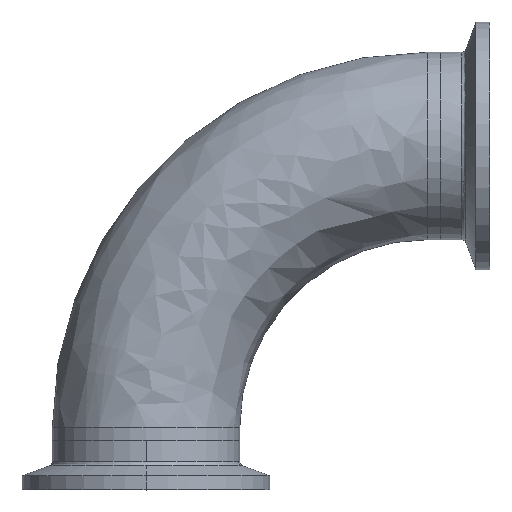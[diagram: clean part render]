
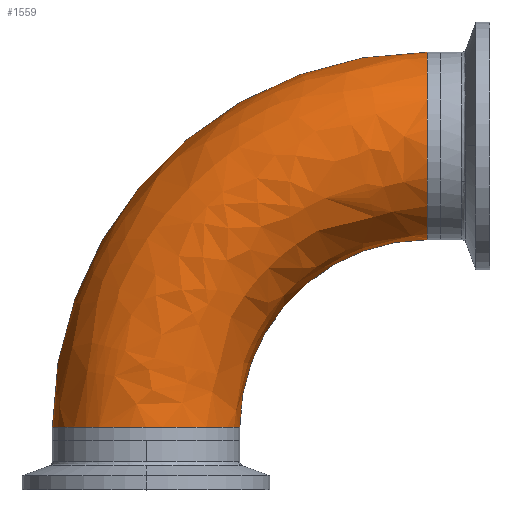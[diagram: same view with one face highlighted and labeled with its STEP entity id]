
A CAD part, top view. The second image highlights one B-rep face of the part: STEP entity #1559.
In plain terms, the highlighted free-form (B-spline) face has degree [3, 3] with [4, 4] control points.
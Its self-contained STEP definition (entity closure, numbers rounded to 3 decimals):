
#41 = ORIENTED_EDGE ( 'NONE', *, *, #1958, .T. ) ;
#94 = VERTEX_POINT ( 'NONE', #3022 ) ;
#98 = CARTESIAN_POINT ( 'NONE',  ( 57.2, 2.7, 0. ) ) ;
#107 = VERTEX_POINT ( 'NONE', #2902 ) ;
#227 = CARTESIAN_POINT ( 'NONE',  ( 57.2, 40.85, 0. ) ) ;
#374 = DIRECTION ( 'NONE',  ( -1., 0., 0. ) ) ;
#431 = CARTESIAN_POINT ( 'NONE',  ( 34.852, 40.85, 0. ) ) ;
#449 = CARTESIAN_POINT ( 'NONE',  ( 19.05, 25.048, 0. ) ) ;
#462 = CARTESIAN_POINT ( 'NONE',  ( 19.05, 2.7, 0. ) ) ;
#489 = CARTESIAN_POINT ( 'NONE',  ( 57.2, 40.85, 38.1 ) ) ;
#503 = CARTESIAN_POINT ( 'NONE',  ( 34.852, 40.85, 38.1 ) ) ;
#512 = CARTESIAN_POINT ( 'NONE',  ( 19.05, 25.048, 38.1 ) ) ;
#522 = FACE_OUTER_BOUND ( 'NONE', #2130, .T. ) ;
#563 = CIRCLE ( 'NONE', #1421, 38.15 ) ;
#705 = CARTESIAN_POINT ( 'NONE',  ( 19.05, 2.7, 38.1 ) ) ;
#714 = CARTESIAN_POINT ( 'NONE',  ( 57.2, 78.95, 38.1 ) ) ;
#750 = CIRCLE ( 'NONE', #1641, 19.05 ) ;
#765 = CARTESIAN_POINT ( 'NONE',  ( 12.534, 78.95, 38.1 ) ) ;
#804 = EDGE_CURVE ( 'NONE', #107, #1263, #1040, .T. ) ;
#828 = ORIENTED_EDGE ( 'NONE', *, *, #2026, .F. ) ;
#962 = CARTESIAN_POINT ( 'NONE',  ( -19.05, 47.366, 38.1 ) ) ;
#973 = CARTESIAN_POINT ( 'NONE',  ( -19.05, 2.7, 38.1 ) ) ;
#986 = CARTESIAN_POINT ( 'NONE',  ( 57.2, 78.95, 0. ) ) ;
#995 = CARTESIAN_POINT ( 'NONE',  ( 12.534, 78.95, 0. ) ) ;
#1040 = CIRCLE ( 'NONE', #3286, 19.05 ) ;
#1124 = DIRECTION ( 'NONE',  ( -1., 0., 0. ) ) ;
#1173 = VERTEX_POINT ( 'NONE', #1499 ) ;
#1206 = EDGE_CURVE ( 'NONE', #1263, #94, #563, .T. ) ;
#1263 = VERTEX_POINT ( 'NONE', #1651 ) ;
#1304 =( BOUNDED_SURFACE ( )  B_SPLINE_SURFACE ( 3, 3, ( 
 ( #2280, #2092, #995, #986 ),
 ( #973, #962, #765, #714 ),
 ( #705, #512, #503, #489 ),
 ( #462, #449, #431, #227 ) ),
 .UNSPECIFIED., .F., .F., .F. ) 
 B_SPLINE_SURFACE_WITH_KNOTS ( ( 4, 4 ),
 ( 4, 4 ),
 ( 0., 1. ),
 ( 0., 1. ),
 .UNSPECIFIED. ) 
 GEOMETRIC_REPRESENTATION_ITEM ( )  RATIONAL_B_SPLINE_SURFACE ( (
 ( 1., 0.805, 0.805, 1.),
 ( 0.333, 0.268, 0.268, 0.333),
 ( 0.333, 0.268, 0.268, 0.333),
 ( 1., 0.805, 0.805, 1.) ) ) 
 REPRESENTATION_ITEM ( '' )  SURFACE ( )  );
#1421 = AXIS2_PLACEMENT_3D ( 'NONE', #2426, #2455, #2538 ) ;
#1499 = CARTESIAN_POINT ( 'NONE',  ( 57.2, 78.95, 0. ) ) ;
#1559 = ADVANCED_FACE ( 'NONE', ( #522 ), #1304, .T. ) ;
#1564 = ORIENTED_EDGE ( 'NONE', *, *, #1206, .T. ) ;
#1641 = AXIS2_PLACEMENT_3D ( 'NONE', #2686, #1124, #2946 ) ;
#1651 = CARTESIAN_POINT ( 'NONE',  ( 19.05, 2.7, 0. ) ) ;
#1958 = EDGE_CURVE ( 'NONE', #94, #1173, #750, .T. ) ;
#1959 = DIRECTION ( 'NONE',  ( 0., 0., -1. ) ) ;
#2026 = EDGE_CURVE ( 'NONE', #107, #1173, #2588, .T. ) ;
#2092 = CARTESIAN_POINT ( 'NONE',  ( -19.05, 47.366, 0. ) ) ;
#2130 = EDGE_LOOP ( 'NONE', ( #2515, #1564, #41, #828 ) ) ;
#2156 = AXIS2_PLACEMENT_3D ( 'NONE', #98, #1959, #374 ) ;
#2280 = CARTESIAN_POINT ( 'NONE',  ( -19.05, 2.7, 0. ) ) ;
#2426 = CARTESIAN_POINT ( 'NONE',  ( 57.2, 2.7, 0. ) ) ;
#2455 = DIRECTION ( 'NONE',  ( 0., 0., -1. ) ) ;
#2459 = CARTESIAN_POINT ( 'NONE',  ( 0., 2.7, 0. ) ) ;
#2467 = DIRECTION ( 'NONE',  ( 0., 1., 0. ) ) ;
#2477 = DIRECTION ( 'NONE',  ( -1., 0., 0. ) ) ;
#2515 = ORIENTED_EDGE ( 'NONE', *, *, #804, .T. ) ;
#2538 = DIRECTION ( 'NONE',  ( -1., 0., 0. ) ) ;
#2588 = CIRCLE ( 'NONE', #2156, 76.25 ) ;
#2686 = CARTESIAN_POINT ( 'NONE',  ( 57.2, 59.9, 0. ) ) ;
#2902 = CARTESIAN_POINT ( 'NONE',  ( -19.05, 2.7, 0. ) ) ;
#2946 = DIRECTION ( 'NONE',  ( 0., 1., 0. ) ) ;
#3022 = CARTESIAN_POINT ( 'NONE',  ( 57.2, 40.85, 0. ) ) ;
#3286 = AXIS2_PLACEMENT_3D ( 'NONE', #2459, #2467, #2477 ) ;
